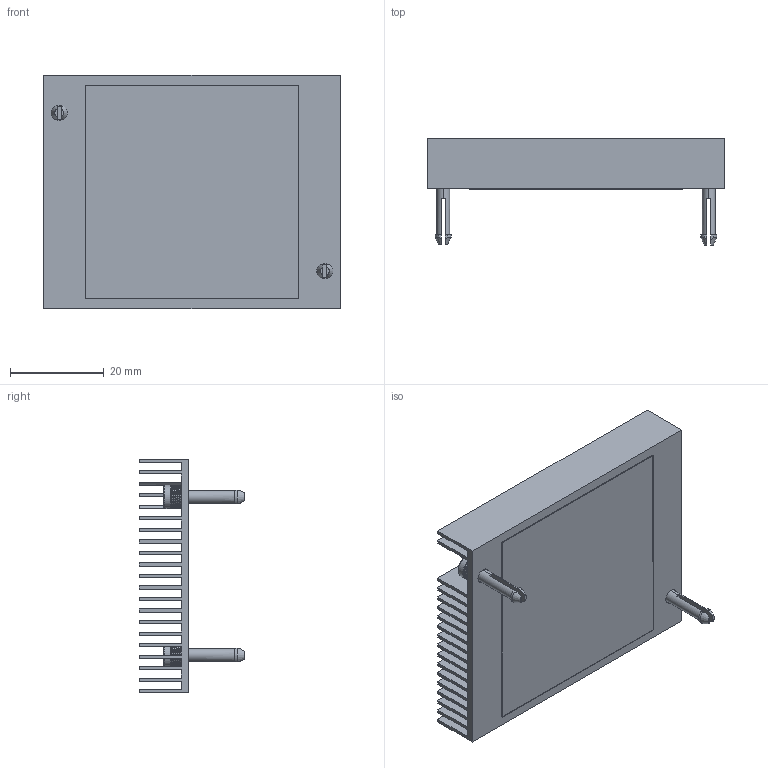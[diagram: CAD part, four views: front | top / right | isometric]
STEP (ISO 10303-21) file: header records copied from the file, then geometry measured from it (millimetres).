
FILE_DESCRIPTION (( 'STEP AP214' ), '1' );
FILE_NAME ('SZ00L+B.STEP', '2023-03-30T00:06:06', ( '' ), ( '' ), 'SwSTEP 2.0', 'SolidWorks 2020', '' );
FILE_SCHEMA (( 'AUTOMOTIVE_DESIGN' ));
Length unit declared in the file: millimetre
Products named in the file (1): SZ00L+B
Bounding box: 63.37 x 22.61 x 50 mm (x, y, z)
Volume: 13328.1 mm3; surface area: 34962.4 mm2
Topology: 4 solids, 4 shells, 174 faces, 460 edges, 300 vertices
Faces by surface type: plane 132, cylinder 22, bspline 16, cone 4
Entity records: 10391 total; most frequent: CARTESIAN_POINT 4167, ORIENTED_EDGE 920, DIRECTION 826, EDGE_CURVE 460, LINE 340, VECTOR 340, VERTEX_POINT 300, AXIS2_PLACEMENT_3D 243
